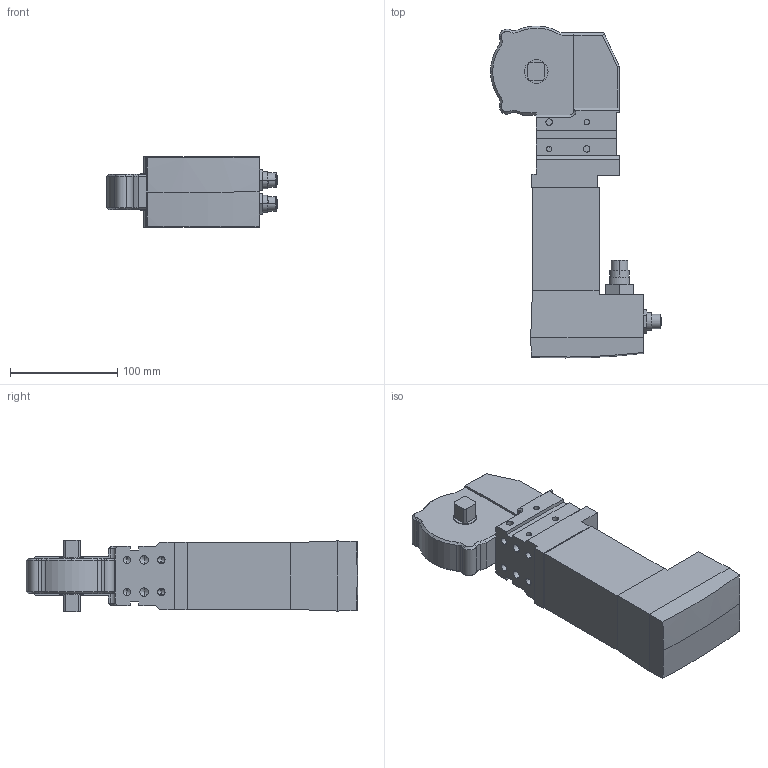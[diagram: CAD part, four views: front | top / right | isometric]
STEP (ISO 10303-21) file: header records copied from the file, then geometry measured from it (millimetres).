
FILE_DESCRIPTION((''),'2;1');
FILE_NAME('001_DESTACO_92W_1_ASM','2024-03-07T',('SYSTEM'),(''),'PRO/ENGINEER BY PARAMETRIC TECHNOLOGY CORPORATION, 2016360','PRO/ENGINEER BY PARAMETRIC TECHNOLOGY CORPORATION, 2016360','');
FILE_SCHEMA(('AUTOMOTIVE_DESIGN { 1 0 10303 214 1 1 1 1 }'));
Length unit declared in the file: millimetre
Products named in the file (5): 8GL_8GR-242-1_8MA-537-1; 92W-1_MOTOR_02_02; 8BF-654-1; SET_SCREW; 001_DESTACO_92W_1_ASM
Assembly tree (4 placements, depth 2):
  001_DESTACO_92W_1_ASM
    8GL_8GR-242-1_8MA-537-1
    92W-1_MOTOR_02_02
    8BF-654-1
    SET_SCREW
Bounding box: 159.1 x 308.96 x 66.5 mm (x, y, z)
Volume: 1374071.9 mm3; surface area: 128314.4 mm2
Topology: 4 solids, 4 shells, 440 faces, 1085 edges, 672 vertices
Faces by surface type: plane 206, cylinder 167, cone 53, sphere 14
Entity records: 16409 total; most frequent: DIRECTION 2339, CARTESIAN_POINT 2232, ORIENTED_EDGE 2074, PRESENTATION_STYLE_ASSIGNMENT 1057, STYLED_ITEM 1041, CURVE_STYLE 1037, EDGE_CURVE 1037, AXIS2_PLACEMENT_3D 864
